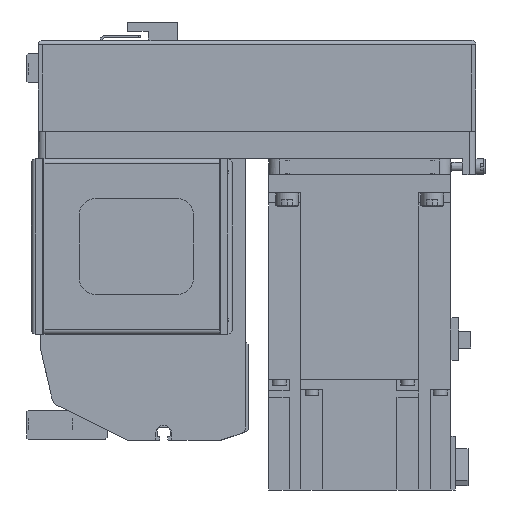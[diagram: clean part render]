
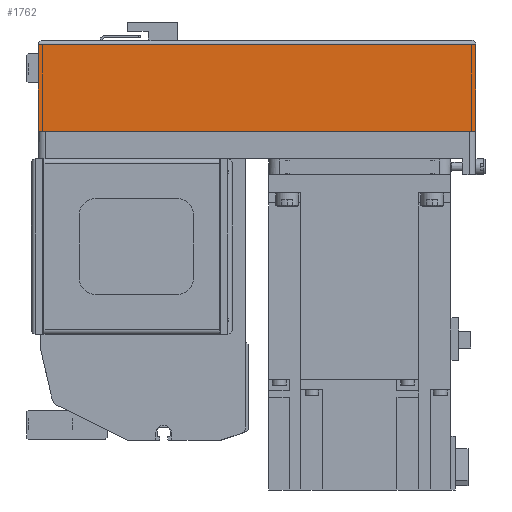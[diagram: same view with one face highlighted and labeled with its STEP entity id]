
A CAD part, left-side view. The second image highlights one B-rep face of the part: STEP entity #1762.
In plain terms, the highlighted planar face has unit normal (-1, 0, 0) as drawn and (0, -1, 0) by its records, which use the part's own axes.
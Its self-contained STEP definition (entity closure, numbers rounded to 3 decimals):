
#1762 = ADVANCED_FACE( '', ( #4221 ), #4222, .T. );
#4221 = FACE_OUTER_BOUND( '', #7591, .T. );
#4222 = PLANE( '', #7592 );
#7591 = EDGE_LOOP( '', ( #12518, #12519, #12520, #12521 ) );
#7592 = AXIS2_PLACEMENT_3D( '', #12522, #12523, #12524 );
#12518 = ORIENTED_EDGE( '', *, *, #19165, .F. );
#12519 = ORIENTED_EDGE( '', *, *, #20586, .F. );
#12520 = ORIENTED_EDGE( '', *, *, #20587, .T. );
#12521 = ORIENTED_EDGE( '', *, *, #20588, .T. );
#12522 = CARTESIAN_POINT( '', ( -192., -40., -12.1 ) );
#12523 = DIRECTION( '', ( 0., -1., 0. ) );
#12524 = DIRECTION( '', ( 0., 0., -1. ) );
#19165 = EDGE_CURVE( '', #22729, #22730, #22731, .T. );
#20586 = EDGE_CURVE( '', #25139, #22729, #25140, .T. );
#20587 = EDGE_CURVE( '', #25139, #25141, #25142, .T. );
#20588 = EDGE_CURVE( '', #25141, #22730, #25143, .T. );
#22729 = VERTEX_POINT( '', #28016 );
#22730 = VERTEX_POINT( '', #28017 );
#22731 = LINE( '', #28018, #28019 );
#25139 = VERTEX_POINT( '', #31621 );
#25140 = LINE( '', #31622, #31623 );
#25141 = VERTEX_POINT( '', #31624 );
#25142 = LINE( '', #31625, #31626 );
#25143 = LINE( '', #31627, #31628 );
#28016 = CARTESIAN_POINT( '', ( 0., -40., -12.1 ) );
#28017 = CARTESIAN_POINT( '', ( 0., -40., -50. ) );
#28018 = CARTESIAN_POINT( '', ( 0., -40., -12.1 ) );
#28019 = VECTOR( '', #35813, 1000. );
#31621 = CARTESIAN_POINT( '', ( -192., -40., -12.1 ) );
#31622 = CARTESIAN_POINT( '', ( -192., -40., -12.1 ) );
#31623 = VECTOR( '', #37624, 1000. );
#31624 = CARTESIAN_POINT( '', ( -192., -40., -50. ) );
#31625 = CARTESIAN_POINT( '', ( -192., -40., -12.1 ) );
#31626 = VECTOR( '', #37625, 1000. );
#31627 = CARTESIAN_POINT( '', ( -192., -40., -50. ) );
#31628 = VECTOR( '', #37626, 1000. );
#35813 = DIRECTION( '', ( 0., 0., -1. ) );
#37624 = DIRECTION( '', ( 1., 0., 0. ) );
#37625 = DIRECTION( '', ( 0., 0., -1. ) );
#37626 = DIRECTION( '', ( 1., 0., 0. ) );
